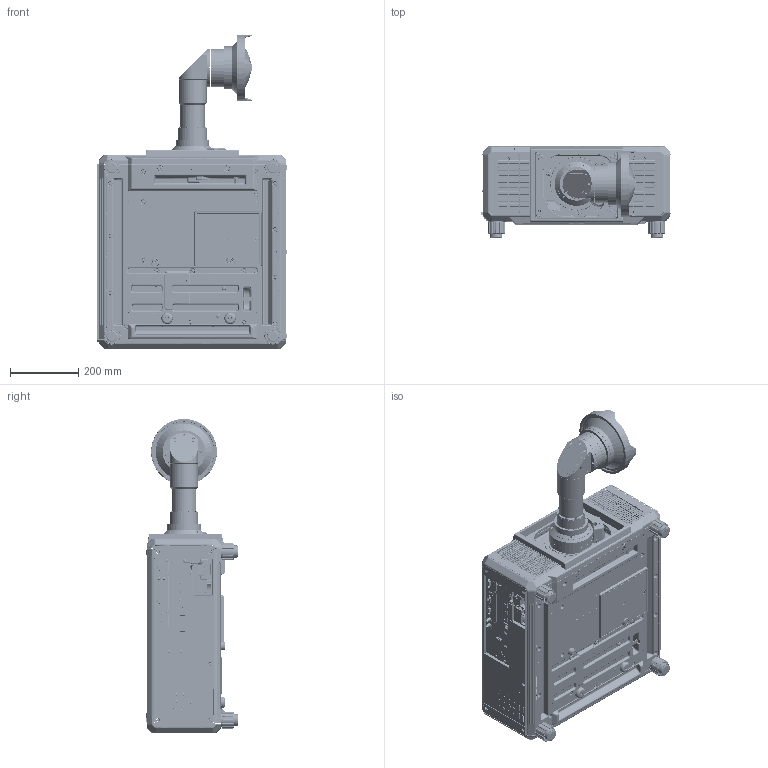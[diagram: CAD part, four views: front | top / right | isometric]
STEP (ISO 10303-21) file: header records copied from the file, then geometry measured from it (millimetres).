
FILE_DESCRIPTION(/* description */ (''),/* implementation_level */ '2;1');
FILE_NAME(/* name */ '01103259_ZA00_RQ25K_D3LEW200_FACE.stp',/* time_stamp */ '2022-12-05T14:39:30+09:00',/* author */ (''),/* organization */ (''),/* preprocessor_version */ 'ST-DEVELOPER v16',/* originating_system */ 'SIEMENS PLM Software NX 10.0',/* authorisation */ '');
FILE_SCHEMA (('AUTOMOTIVE_DESIGN { 1 0 10303 214 3 1 1 1 }'));
Products named in the file (1): 01103259_ZA00
Bounding box: 556.3 x 269 x 921.86 mm (x, y, z)
Surface area: 2019318.4 mm2 (no closed solid volume)
Topology: 0 solids, 2326 shells, 9626 faces, 45507 edges, 37675 vertices
Faces by surface type: plane 4828, cylinder 3640, torus 450, bspline 405, cone 190, sphere 112, extrusion 1
Full cylindrical faces by diameter (mm): 1.02 x2, 3 x1, 3.3 x1, 4 x2, 5 x1, 5.5 x9, 6 x2, 6.5 x4, 7 x4, 8 x2, 8.2 x4, 9.5 x2, 14.9 x1, 23.647 x1, 37.2 x4, 40 x4, 72.6 x1, 78.8 x1, 82 x1, 84.3 x2, 99 x1, 104 x1, 111 x5, 115 x1, 117.2 x1, 125.55 x1, 125.6 x1, 126 x2, 126.6 x1, 129 x1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
Entity records: 553448 total; most frequent: CARTESIAN_POINT 137488, DIRECTION 71131, ORIENTED_EDGE 54492, EDGE_CURVE 44976, VERTEX_POINT 37529, VECTOR 24425, LINE 24424, AXIS2_PLACEMENT_3D 23353
